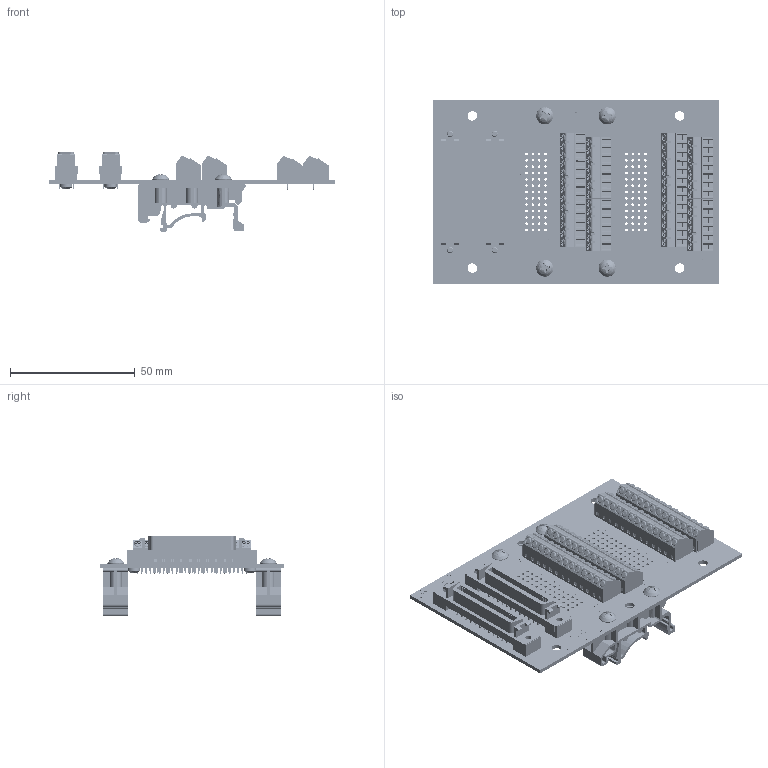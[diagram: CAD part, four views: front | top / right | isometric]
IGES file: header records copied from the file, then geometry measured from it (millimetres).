
Start section: SolidWorks IGES file using analytic representation for surfaces
Global section: file name: C:\Users\Jonny\Documents\Winford Engineering Jobs\BRKARMC50FFS\brkarmc50ff-s-din_rev_a.igs; native system: SolidWorks 2017; preprocessor: SolidWorks 2017; author: Jonny; date: 180715.231052; units: inch
Bounding box: 114.3 x 73.66 x 31.75 mm (x, y, z)
Surface area: 49603.4 mm2 (no closed solid volume)
Topology: 0 solids, 0 shells, 9970 faces, 69368 edges, 69264 vertices
Faces by surface type: bspline 8274, revolution 1696
